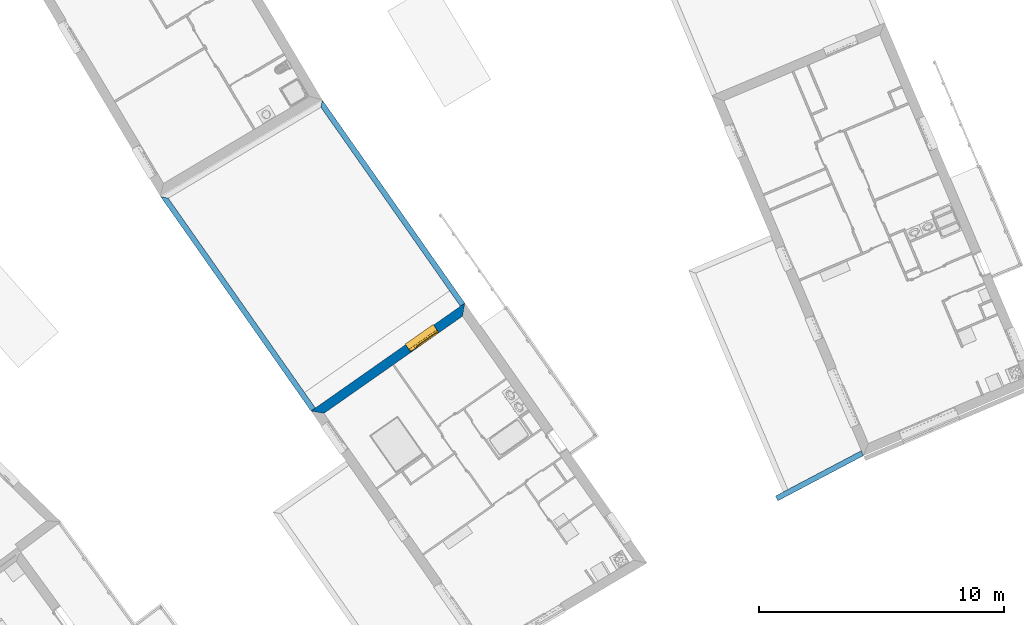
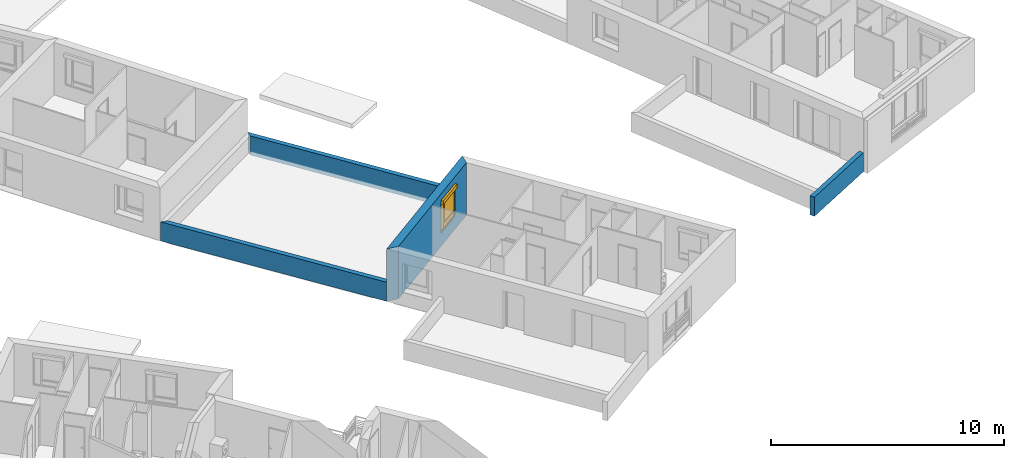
# One storey, part 30 of 121: 4 walls, 1 window, 1 opening.
"""IFC2X3 building model written with IfcOpenShell, lengths in metres."""

from ifc_helpers import new_model, entity, si_unit, converted_unit, derived_unit, money_unit, direction, frame, origin_with_axes, place, context, subcontext, project, spatial, polyline, outline, extrude, open_shell, faceted_brep, surface_model, source, transform, mapped, material, layer, layer_set, layer_usage, type_object, element, fill, save


model = new_model("IFC2X3")

# Units and contexts
model_context = context("Model", 3, precision=1e-05, world=origin_with_axes(), true_north=direction((0.0, 1.0)))
body_context = subcontext(model_context, "Body", "Model", "MODEL_VIEW")
ifc_project = project(units=[si_unit("LENGTHUNIT", "METRE"), si_unit("AREAUNIT", "SQUARE_METRE"), si_unit("VOLUMEUNIT", "CUBIC_METRE"), converted_unit("PLANEANGLEUNIT", "DEGREE", entity("IfcPlaneAngleMeasure", 0.0174532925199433), si_unit("PLANEANGLEUNIT", "RADIAN"), dimensions=[0, 0, 0, 0, 0, 0, 0]), money_unit("CHF"), converted_unit("TIMEUNIT", "Year", entity("IfcTimeMeasure", 31557600.0), si_unit("TIMEUNIT", "SECOND"), dimensions=[0, 0, 1, 0, 0, 0, 0]), si_unit("MASSUNIT", "GRAM", prefix="KILO"), si_unit("THERMODYNAMICTEMPERATUREUNIT", "DEGREE_CELSIUS"), si_unit("LUMINOUSINTENSITYUNIT", "LUMEN"), si_unit("ENERGYUNIT", "JOULE", prefix="MEGA"), derived_unit("THERMALCONDUCTANCEUNIT", [(si_unit("POWERUNIT", "WATT"), 1), (si_unit("LENGTHUNIT", "METRE"), -1), (si_unit("THERMODYNAMICTEMPERATUREUNIT", "KELVIN"), -1)]), derived_unit("SPECIFICHEATCAPACITYUNIT", [(si_unit("ENERGYUNIT", "JOULE"), 1), (si_unit("MASSUNIT", "GRAM", prefix="KILO"), -1), (si_unit("THERMODYNAMICTEMPERATUREUNIT", "KELVIN"), -1)]), derived_unit("MASSDENSITYUNIT", [(si_unit("MASSUNIT", "GRAM", prefix="KILO"), 1), (si_unit("VOLUMEUNIT", "CUBIC_METRE"), -1)])], contexts=[model_context])

# Site, building, storey
site_placement = place(None, origin_with_axes())
site = spatial("IfcSite", under=ifc_project, at=site_placement, Name="Site", CompositionType="ELEMENT")
building_placement = place(site_placement, origin_with_axes())
building = spatial("IfcBuilding", under=site, at=building_placement, Name="Bâtiment", CompositionType="ELEMENT")
storey_placement = place(building_placement, frame((0.0, 0.0, 2.75), z_axis=(0.0, 0.0, 1.0), x_axis=(1.0, 0.0, 0.0)))
storey = spatial("IfcBuildingStorey", under=building, at=storey_placement, Name="Etage 1", CompositionType="ELEMENT", Elevation=2.75)

# Wall, opening, window
ifc_material_1 = material(Name="Parpaing 312445824")
ifc_layer_1 = layer(ifc_material_1, 0.22, ventilated="UNKNOWN")
ifc_material_2 = material(Name="Isolant styromousse 301821074")
ifc_layer_2 = layer(ifc_material_2, 0.16, ventilated="UNKNOWN")
ifc_layer_set_1 = layer_set([ifc_layer_1, ifc_layer_2], Name="isol int 22+16 0836643197")
ifc_layer_usage_1 = layer_usage(ifc_layer_set_1, "AXIS2", "POSITIVE", 0.0)
wall_type_1 = type_object("IfcWallType", Name="isol int 22+16 0836643197 380", PredefinedType="NOTDEFINED")
wall_1_placement = place(storey_placement, frame((9555.643873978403, -1059.576602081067, 57.7), z_axis=(0.0, 0.0, 1.0), x_axis=(-0.8187432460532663, -0.5741598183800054, 0.0)))
wall_1 = element("IfcWallStandardCase", 1, at=wall_1_placement, inside=storey, type_object=wall_type_1, material=ifc_layer_usage_1, Name="Mur-113", context=body_context, shape_type="SweptSolid", body=[
    extrude(outline(polyline([(0.0, 0.0), (7.669914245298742, 0.0), (7.289914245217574, 0.3799999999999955), (0.3800000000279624, 0.3799999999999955), (0.0, 0.0)])), origin_with_axes(), (0.0, 0.0, 1.0), 2.75),
])
opening_placement = place(wall_1_placement, frame((2.254434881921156, 0.0, 0.7000000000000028), z_axis=(0.0, 0.0, 1.0), x_axis=(1.0, 0.0, 0.0)))
opening = element("IfcOpeningElement", 2, at=opening_placement, cuts=wall_1, Name="Fen-045", context=body_context, shape_type="Brep", body=[
    faceted_brep([(-0.7000000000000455, 0.3000000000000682, 1.5), (-0.7000000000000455, 0.4800000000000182, 1.5), (-0.7000000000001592, 3.986545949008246, 1.5), (-0.7000000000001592, 3.986545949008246, 0.0), (-0.7000000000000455, 0.3000000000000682, 0.0), (-0.7000000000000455, 0.2200000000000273, 1.5), (-0.7000000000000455, 0.2200000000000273, 1.700000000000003), (-0.7000000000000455, 0.4800000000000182, 1.700000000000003), (0.7000000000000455, 0.4800000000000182, 1.5), (0.6999999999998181, 3.986545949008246, 1.5), (0.6999999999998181, 3.986545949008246, 0.0), (0.6999999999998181, 0.2999999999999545, 0.0), (-0.7000000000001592, -3.606545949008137, 0.0), (-0.7000000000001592, -3.606545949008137, 1.5), (0.6999999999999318, 0.2200000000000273, 1.5), (0.6999999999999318, 0.2200000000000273, 1.700000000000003), (0.7000000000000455, 0.4800000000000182, 1.700000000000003), (0.6999999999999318, 0.3000000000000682, 1.5), (0.6999999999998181, -3.60654594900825, 0.0), (0.6999999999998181, -3.60654594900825, 1.5)], [[[0, 1, 2, 3, 4]], [[1, 0, 5, 6, 7]], [[1, 8, 9, 2]], [[9, 10, 3, 2]], [[11, 4, 3, 10]], [[5, 0, 4, 12, 13]], [[5, 14, 15, 6]], [[15, 16, 7, 6]], [[8, 1, 7, 16]], [[8, 17, 11, 10, 9]], [[4, 11, 18, 12]], [[13, 12, 18, 19]], [[14, 5, 13, 19]], [[17, 8, 16, 15, 14]], [[17, 14, 19, 18, 11]]]),
])
window_style = type_object("IfcWindowStyle", Name="Fenêtre variable 27", ConstructionType="NOTDEFINED", OperationType="TRIPLE_PANEL_RIGHT", ParameterTakesPrecedence=False, Sizeable=False)
shared_shape = source(origin_with_axes(), body_context, "Body", "SurfaceModel", [
    surface_model("IfcShellBasedSurfaceModel", [(-0.7, -0.05100000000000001, 0.05), (-0.7, -0.05100000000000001, 0.04), (0.7, -0.05100000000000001, 0.04000000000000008), (0.7, -0.05100000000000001, 0.05000000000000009), (-0.7, -0.3799999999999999, 0.02899999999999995), (0.7, -0.3799999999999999, 0.02900000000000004), (-0.7, -0.3799999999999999, 0.008999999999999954), (0.7, -0.3799999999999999, 0.00900000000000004), (-0.7, -0.3699999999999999, 0.01899999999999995), (0.7, -0.3699999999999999, 0.01900000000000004)], [open_shell([[[0, 1, 2, 3]], [[1, 4, 5, 2]], [[4, 6, 7, 5]], [[6, 8, 9, 7]]])]),
    faceted_brep([(-0.7, -0.13, 1.7), (-0.697, -0.13, 1.7), (-0.697, 0.13, 1.7), (-0.7, 0.13, 1.7), (-0.7, -0.13, 1.5), (-0.697, -0.13, 1.5), (-0.697, 0.13, 1.5), (-0.7, 0.13, 1.5)], [[[0, 1, 2, 3]], [[4, 5, 1, 0]], [[1, 5, 6, 2]], [[3, 2, 6, 7]], [[0, 3, 7, 4]], [[7, 6, 5, 4]]]),
    faceted_brep([(0.6970000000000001, -0.1299999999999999, 1.7), (0.7000000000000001, -0.1299999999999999, 1.7), (0.7000000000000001, 0.1300000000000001, 1.7), (0.6970000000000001, 0.1300000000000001, 1.7), (0.6970000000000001, -0.1299999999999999, 1.5), (0.7000000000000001, -0.1299999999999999, 1.5), (0.7000000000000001, 0.1300000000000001, 1.5), (0.6970000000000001, 0.1300000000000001, 1.5)], [[[0, 1, 2, 3]], [[4, 5, 1, 0]], [[1, 5, 6, 2]], [[3, 2, 6, 7]], [[0, 3, 7, 4]], [[7, 6, 5, 4]]]),
    faceted_brep([(-0.697, -0.13, 1.5), (0.697, -0.1299999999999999, 1.5), (0.697, -0.1299999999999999, 1.7), (-0.697, -0.13, 1.7), (-0.697, -0.127, 1.5), (0.697, -0.1269999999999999, 1.5), (0.697, -0.1269999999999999, 1.697), (0.697, 0.1270000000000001, 1.697), (0.697, 0.1270000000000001, 1.503), (0.697, -0.1079999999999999, 1.503), (0.697, -0.1079999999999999, 1.5), (0.697, 0.1300000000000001, 1.5), (0.697, 0.1300000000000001, 1.7), (-0.697, 0.13, 1.7), (-0.697, 0.13, 1.5), (-0.697, -0.108, 1.5), (-0.697, -0.108, 1.503), (-0.697, 0.127, 1.503), (-0.697, 0.127, 1.697), (-0.697, -0.127, 1.697)], [[[0, 1, 2, 3]], [[4, 5, 1, 0]], [[1, 5, 6, 7, 8, 9, 10, 11, 12, 2]], [[3, 2, 12, 13]], [[0, 3, 13, 14, 15, 16, 17, 18, 19, 4]], [[19, 6, 5, 4]], [[18, 7, 6, 19]], [[17, 8, 7, 18]], [[16, 9, 8, 17]], [[15, 10, 9, 16]], [[14, 11, 10, 15]], [[13, 12, 11, 14]]]),
    faceted_brep([(-0.694, -0.08075423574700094, 1.585760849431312), (-0.694, -0.08200000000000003, 1.6), (-0.694, -0.0807542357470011, 1.614239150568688), (-0.694, -0.07705479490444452, 1.628045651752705), (-0.694, -0.07101408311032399, 1.641), (-0.694, -0.06281564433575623, 1.652708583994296), (-0.694, -0.05270858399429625, 1.662815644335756), (-0.694, -0.04100000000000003, 1.671014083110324), (-0.694, -0.02804565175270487, 1.677054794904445), (-0.694, -0.01423915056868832, 1.680754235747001), (-0.694, 0.0, 1.682), (-0.694, 0.01423915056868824, 1.680754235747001), (-0.694, 0.02804565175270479, 1.677054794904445), (-0.694, 0.04099999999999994, 1.671014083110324), (-0.694, 0.05270858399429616, 1.662815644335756), (-0.694, 0.06281564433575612, 1.652708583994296), (-0.694, 0.07101408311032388, 1.641), (-0.694, 0.0770547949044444, 1.628045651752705), (-0.694, 0.08075423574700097, 1.614239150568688), (-0.694, 0.0819999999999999, 1.6), (-0.694, 0.08075423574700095, 1.585760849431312), (-0.694, 0.07705479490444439, 1.571954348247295), (-0.694, 0.07101408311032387, 1.559), (-0.694, 0.06281564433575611, 1.547291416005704), (-0.694, 0.05270858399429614, 1.537184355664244), (-0.694, 0.04099999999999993, 1.528985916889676), (-0.694, 0.02804565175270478, 1.522945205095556), (-0.694, 0.01423915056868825, 1.519245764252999), (-0.694, 0.0, 1.518), (-0.694, -0.01423915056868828, 1.519245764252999), (-0.694, -0.02804565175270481, 1.522945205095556), (-0.694, -0.04099999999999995, 1.528985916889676), (-0.694, -0.05270858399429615, 1.537184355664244), (-0.694, -0.06281564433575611, 1.547291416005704), (-0.694, -0.07101408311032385, 1.559), (-0.694, -0.07705479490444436, 1.571954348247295), (0.694, -0.08075423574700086, 1.585760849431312), (0.694, -0.08199999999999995, 1.6), (0.694, -0.08075423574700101, 1.614239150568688), (0.694, -0.07705479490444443, 1.628045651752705), (0.694, -0.07101408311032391, 1.641), (0.694, -0.06281564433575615, 1.652708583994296), (0.694, -0.05270858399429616, 1.662815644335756), (0.694, -0.04099999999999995, 1.671014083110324), (0.694, -0.02804565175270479, 1.677054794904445), (0.694, -0.01423915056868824, 1.680754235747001), (0.694, 0.0, 1.682), (0.694, 0.01423915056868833, 1.680754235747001), (0.694, 0.02804565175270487, 1.677054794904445), (0.694, 0.04100000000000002, 1.671014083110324), (0.694, 0.05270858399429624, 1.662815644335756), (0.694, 0.0628156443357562, 1.652708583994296), (0.694, 0.07101408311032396, 1.641), (0.694, 0.07705479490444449, 1.628045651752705), (0.694, 0.08075423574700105, 1.614239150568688), (0.694, 0.08199999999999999, 1.6), (0.694, 0.08075423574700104, 1.585760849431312), (0.694, 0.07705479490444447, 1.571954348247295), (0.694, 0.07101408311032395, 1.559), (0.694, 0.06281564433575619, 1.547291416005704), (0.694, 0.05270858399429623, 1.537184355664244), (0.694, 0.04100000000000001, 1.528985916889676), (0.694, 0.02804565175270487, 1.522945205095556), (0.694, 0.01423915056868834, 1.519245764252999), (0.694, 0.0, 1.518), (0.694, -0.0142391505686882, 1.519245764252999), (0.694, -0.02804565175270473, 1.522945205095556), (0.694, -0.04099999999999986, 1.528985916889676), (0.694, -0.05270858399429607, 1.537184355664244), (0.694, -0.06281564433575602, 1.547291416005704), (0.694, -0.07101408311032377, 1.559), (0.694, -0.07705479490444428, 1.571954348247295)], [[[0, 1, 2, 3, 4, 5, 6, 7, 8, 9, 10, 11, 12, 13, 14, 15, 16, 17, 18, 19, 20, 21, 22, 23, 24, 25, 26, 27, 28, 29, 30, 31, 32, 33, 34, 35]], [[0, 36, 37, 1]], [[1, 37, 38, 2]], [[2, 38, 39, 3]], [[3, 39, 40, 4]], [[4, 40, 41, 5]], [[5, 41, 42, 6]], [[6, 42, 43, 7]], [[7, 43, 44, 8]], [[8, 44, 45, 9]], [[9, 45, 46, 10]], [[10, 46, 47, 11]], [[11, 47, 48, 12]], [[12, 48, 49, 13]], [[13, 49, 50, 14]], [[14, 50, 51, 15]], [[15, 51, 52, 16]], [[16, 52, 53, 17]], [[17, 53, 54, 18]], [[18, 54, 55, 19]], [[19, 55, 56, 20]], [[20, 56, 57, 21]], [[21, 57, 58, 22]], [[22, 58, 59, 23]], [[23, 59, 60, 24]], [[24, 60, 61, 25]], [[25, 61, 62, 26]], [[26, 62, 63, 27]], [[27, 63, 64, 28]], [[28, 64, 65, 29]], [[29, 65, 66, 30]], [[30, 66, 67, 31]], [[31, 67, 68, 32]], [[32, 68, 69, 33]], [[33, 69, 70, 34]], [[34, 70, 71, 35]], [[35, 71, 36, 0]], [[36, 71, 70, 69, 68, 67, 66, 65, 64, 63, 62, 61, 60, 59, 58, 57, 56, 55, 54, 53, 52, 51, 50, 49, 48, 47, 46, 45, 44, 43, 42, 41, 40, 39, 38, 37]]]),
    faceted_brep([(0.7, -0.105, 0.03), (0.7, -0.1049999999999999, 1.5), (0.7, -0.1299999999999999, 1.5), (0.7, -0.13, 0.03), (0.6749999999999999, -0.105, 0.03), (0.6749999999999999, -0.1049999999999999, 1.5), (0.6749999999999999, -0.1079999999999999, 1.5), (0.697, -0.1079999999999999, 1.5), (0.697, -0.1269999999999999, 1.5), (0.6749999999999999, -0.1269999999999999, 1.5), (0.6749999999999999, -0.1299999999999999, 1.5), (0.6749999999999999, -0.13, 0.03), (0.6749999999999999, -0.127, 0.03), (0.697, -0.127, 0.03), (0.697, -0.108, 0.03), (0.6749999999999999, -0.108, 0.03)], [[[0, 1, 2, 3]], [[4, 5, 1, 0]], [[1, 5, 6, 7, 8, 9, 10, 2]], [[3, 2, 10, 11]], [[0, 3, 11, 12, 13, 14, 15, 4]], [[15, 6, 5, 4]], [[14, 7, 6, 15]], [[13, 8, 7, 14]], [[12, 9, 8, 13]], [[11, 10, 9, 12]]]),
    faceted_brep([(-0.7, -0.105, 0.03), (-0.7, -0.13, 0.03), (-0.7, -0.1299999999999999, 1.5), (-0.7, -0.1049999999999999, 1.5), (-0.6749999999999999, -0.105, 0.03), (-0.6749999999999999, -0.108, 0.03), (-0.697, -0.108, 0.03), (-0.697, -0.127, 0.03), (-0.6749999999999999, -0.127, 0.03), (-0.6749999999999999, -0.13, 0.03), (-0.6749999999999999, -0.1299999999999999, 1.5), (-0.6749999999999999, -0.1269999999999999, 1.5), (-0.697, -0.1269999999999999, 1.5), (-0.697, -0.1079999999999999, 1.5), (-0.6749999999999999, -0.1079999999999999, 1.5), (-0.6749999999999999, -0.1049999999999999, 1.5)], [[[0, 1, 2, 3]], [[0, 4, 5, 6, 7, 8, 9, 1]], [[1, 9, 10, 2]], [[3, 2, 10, 11, 12, 13, 14, 15]], [[4, 0, 3, 15]], [[5, 4, 15, 14]], [[6, 5, 14, 13]], [[7, 6, 13, 12]], [[8, 7, 12, 11]], [[9, 8, 11, 10]]]),
    surface_model("IfcShellBasedSurfaceModel", [(-0.697, -0.115, 1.6), (0.697, -0.1149999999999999, 1.6), (0.697, -0.1199999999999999, 1.6), (-0.697, -0.12, 1.6), (-0.697, -0.115, 1.6), (-0.697, -0.12, 1.6), (0.697, -0.12, 1.6), (0.697, -0.1149999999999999, 1.6)], [open_shell([[[0, 1, 2, 3]], [[4, 5, 6, 7]]])]),
    faceted_brep([(-0.697, -0.115, 1.6), (0.697, -0.1149999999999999, 1.6), (0.697, -0.1166666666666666, 1.583333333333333), (-0.697, -0.1166666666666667, 1.583333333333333), (-0.697, -0.12, 1.6), (0.697, -0.1199999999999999, 1.6), (0.697, -0.1216666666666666, 1.583333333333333), (0.697, -0.1216666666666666, 1.566666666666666), (0.697, -0.1199999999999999, 1.55), (0.697, -0.1149999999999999, 1.55), (0.697, -0.1166666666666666, 1.566666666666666), (-0.697, -0.1166666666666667, 1.566666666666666), (-0.697, -0.115, 1.55), (-0.697, -0.12, 1.55), (-0.697, -0.1216666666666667, 1.566666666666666), (-0.697, -0.1216666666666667, 1.583333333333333)], [[[0, 1, 2, 3]], [[4, 5, 1, 0]], [[1, 5, 6, 7, 8, 9, 10, 2]], [[3, 2, 10, 11]], [[0, 3, 11, 12, 13, 14, 15, 4]], [[15, 6, 5, 4]], [[14, 7, 6, 15]], [[13, 8, 7, 14]], [[12, 9, 8, 13]], [[11, 10, 9, 12]]]),
    faceted_brep([(-0.697, -0.115, 1.55), (0.697, -0.1149999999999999, 1.55), (0.697, -0.1166666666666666, 1.533333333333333), (-0.697, -0.1166666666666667, 1.533333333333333), (-0.697, -0.12, 1.55), (0.697, -0.1199999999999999, 1.55), (0.697, -0.1216666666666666, 1.533333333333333), (0.697, -0.1216666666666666, 1.516666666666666), (0.697, -0.1199999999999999, 1.5), (0.697, -0.1149999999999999, 1.5), (0.697, -0.1166666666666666, 1.516666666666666), (-0.697, -0.1166666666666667, 1.516666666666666), (-0.697, -0.115, 1.5), (-0.697, -0.12, 1.5), (-0.697, -0.1216666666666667, 1.516666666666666), (-0.697, -0.1216666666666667, 1.533333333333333)], [[[0, 1, 2, 3]], [[4, 5, 1, 0]], [[1, 5, 6, 7, 8, 9, 10, 2]], [[3, 2, 10, 11]], [[0, 3, 11, 12, 13, 14, 15, 4]], [[15, 6, 5, 4]], [[14, 7, 6, 15]], [[13, 8, 7, 14]], [[12, 9, 8, 13]], [[11, 10, 9, 12]]]),
    faceted_brep([(-0.6749999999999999, 0.0, 1.45), (-0.7, 0.0, 1.45), (-0.7, -0.05000000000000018, 1.45), (-0.6499999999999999, -0.05000000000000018, 1.45), (-0.6499999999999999, -0.02500000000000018, 1.45), (-0.6749999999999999, -0.02500000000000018, 1.45), (-0.6749999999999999, 0.0, 0.3099999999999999), (-0.6499999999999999, 0.0, 0.3099999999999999), (-0.6499999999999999, 0.0, 0.265), (-0.6499999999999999, 0.0, 0.05000000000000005), (-0.7, 0.0, 0.05000000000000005), (-0.7, -0.05000000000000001, 0.05000000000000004), (-0.6499999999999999, -0.05000000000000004, 0.335), (-0.6499999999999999, -0.05000000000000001, 0.05000000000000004), (-0.6499999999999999, -0.05000000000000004, 0.265), (-0.6499999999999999, -0.02500000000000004, 0.335), (-0.6499999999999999, -0.02500000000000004, 0.3099999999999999), (-0.6749999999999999, -0.02500000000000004, 0.3099999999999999)], [[[0, 1, 2, 3, 4, 5]], [[6, 7, 8, 9, 10, 1, 0]], [[1, 10, 11, 2]], [[12, 3, 2, 11, 13, 14]], [[4, 3, 12, 15]], [[15, 16, 17, 5, 4]], [[5, 17, 6, 0]], [[6, 17, 16, 7]], [[16, 15, 12, 14, 8, 7]], [[9, 8, 14, 13]], [[10, 9, 13, 11]]]),
    faceted_brep([(0.3068894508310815, -0.02500000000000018, 1.45), (0.3068894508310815, -0.05000000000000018, 1.45), (0.3768894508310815, -0.05000000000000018, 1.45), (0.3768894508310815, 0.0, 1.45), (0.3318894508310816, 0.0, 1.45), (0.3318894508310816, -0.02500000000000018, 1.45), (0.3068894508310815, -0.02500000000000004, 0.335), (0.3068894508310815, -0.05000000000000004, 0.335), (0.3068894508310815, -0.05000000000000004, 0.265), (0.3068894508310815, -0.05000000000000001, 0.05000000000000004), (0.3768894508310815, -0.05000000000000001, 0.05000000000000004), (0.3768894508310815, 0.0, 0.05000000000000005), (0.3318894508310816, 0.0, 0.3099999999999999), (0.3068894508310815, 0.0, 0.05000000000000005), (0.3068894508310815, 0.0, 0.265), (0.3068894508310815, 0.0, 0.3099999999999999), (0.3318894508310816, -0.02500000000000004, 0.3099999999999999), (0.3068894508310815, -0.02500000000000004, 0.3099999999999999)], [[[0, 1, 2, 3, 4, 5]], [[6, 7, 1, 0]], [[8, 9, 10, 2, 1, 7]], [[11, 3, 2, 10]], [[12, 4, 3, 11, 13, 14, 15]], [[12, 16, 5, 4]], [[5, 16, 17, 6, 0]], [[17, 15, 14, 8, 7, 6]], [[14, 13, 9, 8]], [[13, 11, 10, 9]], [[15, 17, 16, 12]]]),
    faceted_brep([(-0.6499999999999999, -0.02500000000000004, 0.335), (-0.6499999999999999, -0.05000000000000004, 0.335), (0.3068894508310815, -0.05000000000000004, 0.335), (0.3068894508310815, -0.02500000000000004, 0.335), (-0.6499999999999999, -0.02500000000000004, 0.3099999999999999), (-0.6499999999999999, 0.0, 0.3099999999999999), (-0.6499999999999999, 0.0, 0.265), (-0.6499999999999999, -0.05000000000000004, 0.265), (0.3068894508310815, -0.05000000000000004, 0.265), (0.3068894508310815, -0.02500000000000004, 0.3099999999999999), (0.3068894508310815, 0.0, 0.265), (0.3068894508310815, 0.0, 0.3099999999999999)], [[[0, 1, 2, 3]], [[4, 5, 6, 7, 1, 0]], [[2, 1, 7, 8]], [[9, 3, 2, 8, 10, 11]], [[9, 4, 0, 3]], [[5, 4, 9, 11]], [[11, 10, 6, 5]], [[6, 10, 8, 7]]]),
    faceted_brep([(-0.6749999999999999, 0.0, 1.45), (-0.7, 0.0, 1.45), (-0.7, 0.0, 1.5), (0.7, 0.0, 1.5), (0.7, 0.0, 1.45), (0.6499999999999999, 0.0, 1.45), (0.3768894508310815, 0.0, 1.45), (0.3318894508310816, 0.0, 1.45), (0.3318894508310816, 0.0, 1.475), (-0.6749999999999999, 0.0, 1.475), (-0.6749999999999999, -0.02500000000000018, 1.45), (-0.6499999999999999, -0.02500000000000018, 1.45), (-0.6499999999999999, -0.05000000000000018, 1.45), (-0.7, -0.05000000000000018, 1.45), (-0.7, -0.05000000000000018, 1.5), (0.7, -0.05000000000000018, 1.5), (0.7, -0.05000000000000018, 1.45), (0.6499999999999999, -0.05000000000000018, 1.45), (0.3768894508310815, -0.05000000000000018, 1.45), (0.3318894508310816, -0.02500000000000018, 1.45), (0.3068894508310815, -0.05000000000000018, 1.45), (0.3068894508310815, -0.02500000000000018, 1.45), (0.3318894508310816, -0.02500000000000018, 1.475), (-0.6749999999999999, -0.02500000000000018, 1.475)], [[[0, 1, 2, 3, 4, 5, 6, 7, 8, 9]], [[10, 11, 12, 13, 1, 0]], [[2, 1, 13, 14]], [[3, 2, 14, 15]], [[4, 3, 15, 16]], [[5, 4, 16, 17]], [[6, 5, 17, 18]], [[19, 7, 6, 18, 20, 21]], [[7, 19, 22, 8]], [[8, 22, 23, 9]], [[9, 23, 10, 0]], [[21, 11, 10, 23, 22, 19]], [[21, 20, 12, 11]], [[18, 17, 16, 15, 14, 13, 12, 20]]]),
    faceted_brep([(0.6499999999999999, -0.05000000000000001, 0.05), (0.6499999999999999, 0.0, 0.05000000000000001), (0.7, 0.0, 0.05000000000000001), (0.7, -0.05000000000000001, 0.05), (0.6499999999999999, -0.05000000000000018, 1.45), (0.6499999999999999, 0.0, 1.45), (0.7, 0.0, 1.45), (0.7, -0.05000000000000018, 1.45)], [[[0, 1, 2, 3]], [[4, 5, 1, 0]], [[1, 5, 6, 2]], [[3, 2, 6, 7]], [[0, 3, 7, 4]], [[7, 6, 5, 4]]]),
    faceted_brep([(-0.6499999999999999, -0.05000000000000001, 0.05), (-0.6499999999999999, 0.0, 0.05000000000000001), (-0.7, 0.0, 0.05000000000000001), (-0.7, -0.05000000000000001, 0.05), (0.3068894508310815, -0.05000000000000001, 0.05), (0.3068894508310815, 0.0, 0.05000000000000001), (0.3768894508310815, 0.0, 0.05000000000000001), (0.6499999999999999, 0.0, 0.05000000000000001), (0.7, 0.0, 0.05000000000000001), (0.7, 0.0, 0.0), (-0.7, 0.0, 0.0), (-0.7, -0.05, 0.0), (0.7, -0.05, 0.0), (0.7, -0.05000000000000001, 0.05), (0.6499999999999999, -0.05000000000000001, 0.05), (0.3768894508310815, -0.05000000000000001, 0.05)], [[[0, 1, 2, 3]], [[4, 5, 1, 0]], [[1, 5, 6, 7, 8, 9, 10, 2]], [[3, 2, 10, 11]], [[0, 3, 11, 12, 13, 14, 15, 4]], [[15, 6, 5, 4]], [[14, 7, 6, 15]], [[13, 8, 7, 14]], [[12, 9, 8, 13]], [[11, 10, 9, 12]]]),
    faceted_brep([(-0.625, -0.02500000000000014, 1.425), (-0.625, 0.02499999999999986, 1.425), (-0.6749999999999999, 0.02499999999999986, 1.425), (-0.6749999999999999, -0.02500000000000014, 1.425), (-0.625, -0.02500000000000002, 0.3599999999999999), (-0.625, 0.02499999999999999, 0.3599999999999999), (-0.6749999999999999, 0.02499999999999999, 0.3599999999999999), (-0.6749999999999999, -0.02500000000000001, 0.3599999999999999)], [[[0, 1, 2, 3]], [[4, 5, 1, 0]], [[1, 5, 6, 2]], [[3, 2, 6, 7]], [[0, 3, 7, 4]], [[7, 6, 5, 4]]]),
    faceted_brep([(0.2818894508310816, -0.02500000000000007, 0.3599999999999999), (0.2818894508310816, 0.02499999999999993, 0.3599999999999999), (0.3318894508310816, 0.02499999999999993, 0.3599999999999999), (0.3318894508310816, -0.02500000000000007, 0.3599999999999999), (0.2818894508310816, -0.0250000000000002, 1.425), (0.2818894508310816, 0.0249999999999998, 1.425), (0.3318894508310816, 0.0249999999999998, 1.425), (0.3318894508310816, -0.0250000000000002, 1.425)], [[[0, 1, 2, 3]], [[4, 5, 1, 0]], [[1, 5, 6, 2]], [[3, 2, 6, 7]], [[0, 3, 7, 4]], [[7, 6, 5, 4]]]),
    faceted_brep([(0.3318894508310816, -0.02500000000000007, 0.3099999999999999), (0.3318894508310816, 0.02499999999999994, 0.3099999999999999), (0.3318894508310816, 0.02499999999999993, 0.3599999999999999), (0.3318894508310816, -0.02500000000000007, 0.3599999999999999), (-0.6749999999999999, -0.025, 0.3099999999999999), (-0.6749999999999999, 0.02499999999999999, 0.3099999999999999), (-0.6749999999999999, 0.02499999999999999, 0.3599999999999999), (-0.625, 0.02499999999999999, 0.3599999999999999), (0.2818894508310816, 0.02499999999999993, 0.3599999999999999), (0.2818894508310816, -0.02500000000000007, 0.3599999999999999), (-0.625, -0.02500000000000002, 0.3599999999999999), (-0.6749999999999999, -0.02500000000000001, 0.3599999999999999)], [[[0, 1, 2, 3]], [[4, 5, 1, 0]], [[1, 5, 6, 7, 8, 2]], [[3, 2, 8, 9]], [[0, 3, 9, 10, 11, 4]], [[11, 6, 5, 4]], [[10, 7, 6, 11]], [[9, 8, 7, 10]]]),
    faceted_brep([(-0.6749999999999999, -0.02500000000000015, 1.475), (-0.6749999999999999, 0.02499999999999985, 1.475), (-0.6749999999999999, 0.02499999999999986, 1.425), (-0.6749999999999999, -0.02500000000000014, 1.425), (0.3318894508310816, -0.02500000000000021, 1.475), (0.3318894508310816, 0.02499999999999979, 1.475), (0.3318894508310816, 0.0249999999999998, 1.425), (0.2818894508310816, 0.0249999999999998, 1.425), (-0.625, 0.02499999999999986, 1.425), (-0.625, -0.02500000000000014, 1.425), (0.2818894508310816, -0.0250000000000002, 1.425), (0.3318894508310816, -0.0250000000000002, 1.425)], [[[0, 1, 2, 3]], [[4, 5, 1, 0]], [[1, 5, 6, 7, 8, 2]], [[3, 2, 8, 9]], [[0, 3, 9, 10, 11, 4]], [[11, 6, 5, 4]], [[10, 7, 6, 11]], [[9, 8, 7, 10]]]),
    surface_model("IfcShellBasedSurfaceModel", [(-0.625, -0.01000000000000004, 0.3599999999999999), (0.2818894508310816, -0.01000000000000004, 0.3599999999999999), (0.2818894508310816, -0.01000000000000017, 1.425), (-0.625, -0.01000000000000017, 1.425)], [open_shell([[[0, 1, 2, 3]]])]),
    surface_model("IfcShellBasedSurfaceModel", [(-0.625, 0.009999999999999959, 0.3599999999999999), (-0.625, 0.00999999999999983, 1.425), (0.2818894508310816, 0.00999999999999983, 1.425), (0.2818894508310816, 0.009999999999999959, 0.3599999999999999)], [open_shell([[[0, 1, 2, 3]]])]),
    surface_model("IfcShellBasedSurfaceModel", [(0.3768894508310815, -0.035, 0.05), (0.65, -0.035, 0.05), (0.65, -0.03500000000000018, 1.45), (0.3768894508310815, -0.03500000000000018, 1.45)], [open_shell([[[0, 1, 2, 3]]])]),
    surface_model("IfcShellBasedSurfaceModel", [(0.3768894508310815, -0.015, 0.05), (0.3768894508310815, -0.01500000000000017, 1.45), (0.65, -0.01500000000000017, 1.45), (0.65, -0.015, 0.05)], [open_shell([[[0, 1, 2, 3]]])]),
    surface_model("IfcShellBasedSurfaceModel", [(-0.6499999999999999, -0.035, 0.05), (0.3068894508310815, -0.035, 0.05), (0.3068894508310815, -0.03500000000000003, 0.265), (-0.6499999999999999, -0.03500000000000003, 0.265)], [open_shell([[[0, 1, 2, 3]]])]),
    surface_model("IfcShellBasedSurfaceModel", [(-0.6499999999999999, -0.015, 0.05), (-0.6499999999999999, -0.01500000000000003, 0.265), (0.3068894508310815, -0.01500000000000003, 0.265), (0.3068894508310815, -0.015, 0.05)], [open_shell([[[0, 1, 2, 3]]])]),
])
window_placement = place(opening_placement, frame((-0.6999999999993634, 0.0, 0.0), z_axis=(0.0, 0.0, 1.0), x_axis=(1.0, 0.0, 0.0)))
window = element("IfcWindow", 3, at=window_placement, inside=storey, type_object=window_style, Name="Fen-045", OverallHeight=1.5, OverallWidth=1.4, context=body_context, shape_type="MappedRepresentation", body=[
    mapped(shared_shape, transform((0.6999999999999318, 0.3500000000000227, 0.0))),
])
fill(opening, window)

# Walls
ifc_material_3 = material(Name="Empty Fill 3000033799")
ifc_layer_3 = layer(ifc_material_3, 0.22, ventilated="UNKNOWN")
ifc_layer_set_2 = layer_set([ifc_layer_3], Name="acrotère 22")
ifc_layer_usage_2 = layer_usage(ifc_layer_set_2, "AXIS2", "POSITIVE", 0.0)
wall_type_2 = type_object("IfcWallType", Name="acrotère 22 220", PredefinedType="NOTDEFINED")
wall_2_placement = place(storey_placement, frame((9568.427423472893, -1067.645333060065, 57.7), z_axis=(0.0, 0.0, 1.0), x_axis=(0.8842724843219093, 0.4669712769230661, 0.0)))
element("IfcWallStandardCase", 4, at=wall_2_placement, inside=storey, type_object=wall_type_2, material=ifc_layer_usage_2, Name="Mur-105", context=body_context, shape_type="SweptSolid", body=[
    extrude(outline(polyline([(0.0, 0.0), (3.947360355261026, 0.0), (3.966501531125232, 0.2199999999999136), (0.0, 0.2200000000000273), (0.0, 0.0)])), origin_with_axes(), (0.0, 0.0, 1.0), 1.0),
])
ifc_layer_usage_3 = layer_usage(ifc_layer_set_2, "AXIS2", "POSITIVE", 0.0)
wall_3_placement = place(storey_placement, frame((9555.643873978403, -1059.576602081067, 57.7), z_axis=(0.0, 0.0, 1.0), x_axis=(-0.5741598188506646, 0.8187432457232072, 0.0)))
element("IfcWallStandardCase", 5, at=wall_3_placement, inside=storey, type_object=wall_type_2, material=ifc_layer_usage_3, Name="Mur-107", context=body_context, shape_type="SweptSolid", body=[
    extrude(outline(polyline([(0.0, 0.0), (10.12520985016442, 0.0), (9.920970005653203, 0.2200000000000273), (1.26419763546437e-10, 0.2199999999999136), (0.0, 0.0)])), origin_with_axes(), (0.0, 0.0, 1.0), 1.0),
])
ifc_layer_usage_4 = layer_usage(ifc_layer_set_2, "AXIS2", "POSITIVE", 0.0)
wall_4_placement = place(storey_placement, frame((9543.223050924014, -1055.223196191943, 57.7), z_axis=(0.0, 0.0, 1.0), x_axis=(0.5741598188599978, -0.8187432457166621, 0.0)))
element("IfcWallStandardCase", 6, at=wall_4_placement, inside=storey, type_object=wall_type_2, material=ifc_layer_usage_4, Name="Mur-105", context=body_context, shape_type="SweptSolid", body=[
    extrude(outline(polyline([(0.0, 0.0), (10.69585917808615, 0.0), (10.69585917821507, 0.2200000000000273), (0.236976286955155, 0.2199999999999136), (0.0, 0.0)])), origin_with_axes(), (0.0, 0.0, 1.0), 1.0),
])

save(model, "model.ifc")
